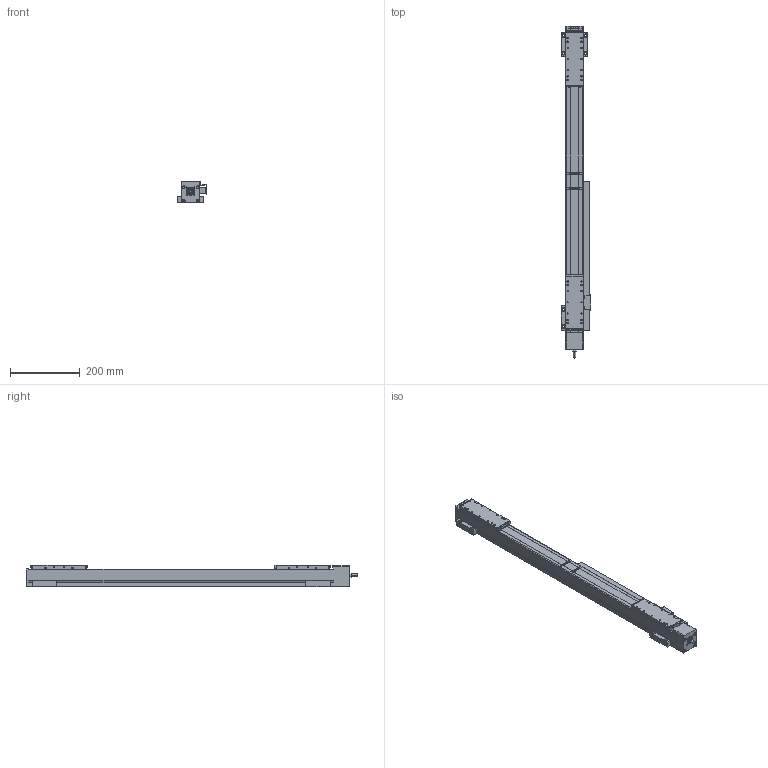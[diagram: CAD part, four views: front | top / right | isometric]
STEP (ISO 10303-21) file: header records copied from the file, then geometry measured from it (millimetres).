
FILE_DESCRIPTION(('Creo Elements/Direct Modeling STEP Export'),'2;1');
FILE_NAME('B050-C-SRS-RL-150-EN.stp','2025-01-14T14:59:45',(''),(''),'Creo Elements/Direct Modeling STEP processor for AP214 (Solid Model)','Creo Elements/Direct Modeling 20.1D 10-Oct-2020 (C) Parametric Technology GmbH','');
FILE_SCHEMA(('AUTOMOTIVE_DESIGN { 1 0 10303 214 1 1 1 1 }'));
Products named in the file (21): B050-C-SRS-GRUNDKOERPER-BLAU.PRT.01; B050-C-S-GRUNDKOERPER.ASM; BETA-S-GRUNDKOERPER.ASM; B050-C-SRS-SCHLITTEN-150.PRT; B050-ABSTREIFER-BUERSTE-B_10575.PRT; M2-5X8_DIN7500_10270.PRT.51; B050-ABSTREIFER-BUERSTE-BLAU.ASM; B050-ABSTREIFER.ASM; B050-C-S-SCHLITTEN.ASM.02; BETA-S-SCHLITTEN.ASM; EN-SCHALTFAHNE-10407.PRT; M4X6_ISO7380-1_10251.PRT; EN-SCHALTFAHNE-10407.ASM; EN-LEISTE.PRT; EN-SCHALTER.PRT.51; INDUKTIVE-ENDSCHALTER.ASM; BETA-ENDSCHALTER.ASM; BL1_10552.PRT; BL1-PAAR_10552.ASM.57; BETA-BEFESTIGUNGSELEMENTE.ASM; B050-C-SRS-RL-150-EN-Leiste-Seite-C
Assembly tree (28 placements, depth 6):
  B050-C-SRS-RL-150-EN-Leiste-Seite-C
    BETA-BEFESTIGUNGSELEMENTE.ASM
      BL1-PAAR_10552.ASM.57  x2
        BL1_10552.PRT
    BETA-ENDSCHALTER.ASM
      INDUKTIVE-ENDSCHALTER.ASM
        EN-SCHALTER.PRT.51  x3
        EN-LEISTE.PRT
      EN-SCHALTFAHNE-10407.ASM
        M4X6_ISO7380-1_10251.PRT  x2
        EN-SCHALTFAHNE-10407.PRT
    BETA-S-SCHLITTEN.ASM
      B050-C-S-SCHLITTEN.ASM.02  x2
        B050-ABSTREIFER.ASM
          B050-ABSTREIFER-BUERSTE-BLAU.ASM
            M2-5X8_DIN7500_10270.PRT.51  x2
            B050-ABSTREIFER-BUERSTE-B_10575.PRT
        B050-C-SRS-SCHLITTEN-150.PRT
    BETA-S-GRUNDKOERPER.ASM
      B050-C-S-GRUNDKOERPER.ASM
        B050-C-SRS-GRUNDKOERPER-BLAU.PRT.01
Bounding box: 84.4 x 955 x 62 mm (x, y, z)
Volume: 2615254.6 mm3; surface area: 360315.7 mm2
Topology: 26 solids, 26 shells, 3390 faces, 9163 edges, 5935 vertices
Faces by surface type: plane 2510, cylinder 528, cone 294, torus 38, sphere 20
Entity records: 101356 total; most frequent: CARTESIAN_POINT 15379, ORIENTED_EDGE 14910, DIRECTION 12951, EDGE_CURVE 7455, VECTOR 6857, LINE 6857, VERTEX_POINT 4926, AXIS2_PLACEMENT_3D 3047
